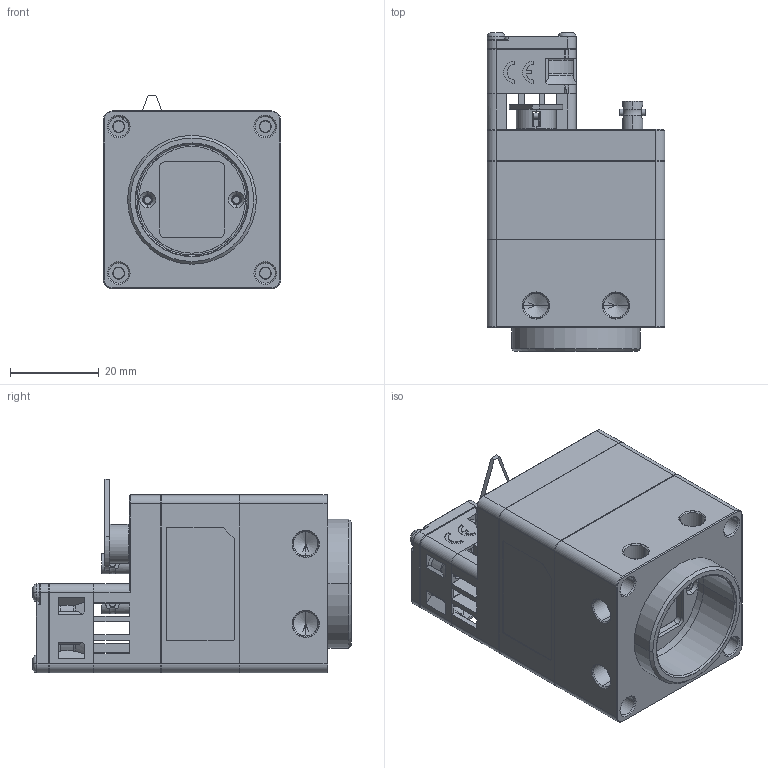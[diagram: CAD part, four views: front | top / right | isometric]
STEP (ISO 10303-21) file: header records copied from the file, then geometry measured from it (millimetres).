
FILE_DESCRIPTION((''),'2;1');
FILE_NAME('00-25-BYD_ASM_ASM','2025-08-05T13:55:10',('gengdawei'),(''),'CREO PARAMETRIC BY PTC INC, 2020044','CREO PARAMETRIC BY PTC INC, 2020044','');
FILE_SCHEMA(('CONFIG_CONTROL_DESIGN'));
Products named in the file (20): DE-14-078659_75; DE-11-019131_2; 0-0001_ASM_112_ASM; DE-14-078661_7; D-01-35-26-0467_2; D-01-35-26-0837_2; 101800871_3; SC-PM2_5X10-SUS_2; DE-14-078703_4; SC-P0M2X15-BNI-CNL-SUS_1; 10001_ASM_44_ASM; 101305125_4; 101306240_7; MV_20631_REV1_0_A_ASM_50_ASM; MV_20631_REV1_0_ASM_67_ASM; DE-14-078660_5; 0001_ASM_18_ASM; 0-0002_ASM_118_ASM; 00-25-BYD_ASM_172_ASM; 00-25-BYD_ASM_ASM
Assembly tree (24 placements, depth 6):
  00-25-BYD_ASM_ASM
    00-25-BYD_ASM_172_ASM
      0-0001_ASM_112_ASM
        DE-14-078659_75
        DE-11-019131_2
      0-0002_ASM_118_ASM
        10001_ASM_44_ASM
          DE-14-078661_7
          D-01-35-26-0467_2  x2
          D-01-35-26-0837_2
          101800871_3
          SC-PM2_5X10-SUS_2  x3
          DE-14-078703_4
          SC-P0M2X15-BNI-CNL-SUS_1  x2
        MV_20631_REV1_0_ASM_67_ASM
          MV_20631_REV1_0_A_ASM_50_ASM
            101305125_4  x2
            101306240_7
        0001_ASM_18_ASM
          DE-14-078660_5
Bounding box: 40 x 71.81 x 43.52 mm (x, y, z)
Volume: 68024.8 mm3; surface area: 32823.5 mm2
Topology: 17 solids, 64 shells, 3086 faces, 8832 edges, 5879 vertices
Faces by surface type: plane 1449, cylinder 929, cone 334, bspline 209, torus 165
Entity records: 120329 total; most frequent: CARTESIAN_POINT 47795, ORIENTED_EDGE 15866, DIRECTION 14173, EDGE_CURVE 8014, VERTEX_POINT 5359, AXIS2_PLACEMENT_3D 5095, VECTOR 3983, LINE 3983
